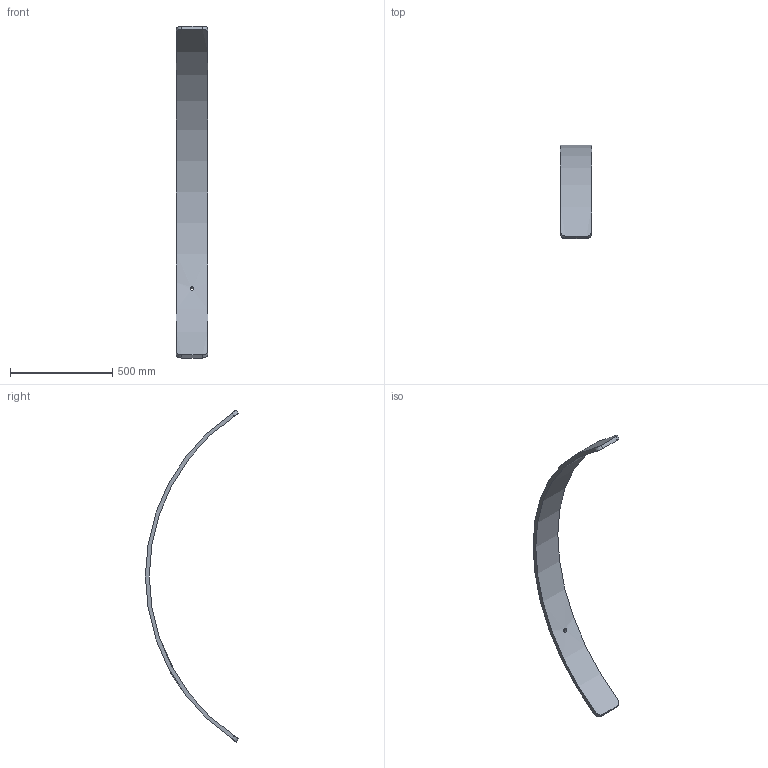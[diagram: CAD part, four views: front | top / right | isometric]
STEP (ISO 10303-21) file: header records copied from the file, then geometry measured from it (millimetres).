
FILE_DESCRIPTION (( 'STEP AP214' ), '1' );
FILE_NAME ('14 AR PCS.STEP', '2025-01-09T19:43:26', ( '' ), ( '' ), 'SwSTEP 2.0', 'SolidWorks 2024', '' );
FILE_SCHEMA (( 'AUTOMOTIVE_DESIGN' ));
Length unit declared in the file: inch
Products named in the file (1): 14 AR PCS
Bounding box: 152.4 x 455.54 x 1622.96 mm (x, y, z)
Volume: 5535369.8 mm3; surface area: 660137.1 mm2
Topology: 1 solids, 1 shells, 11 faces, 27 edges, 18 vertices
Faces by surface type: cylinder 7, plane 4
Full cylindrical faces by diameter (mm): 19.447 x1
Entity records: 745 total; most frequent: CARTESIAN_POINT 470, ORIENTED_EDGE 52, DIRECTION 44, EDGE_CURVE 26, VERTEX_POINT 18, AXIS2_PLACEMENT_3D 16, EDGE_LOOP 14, FACE_OUTER_BOUND 12
